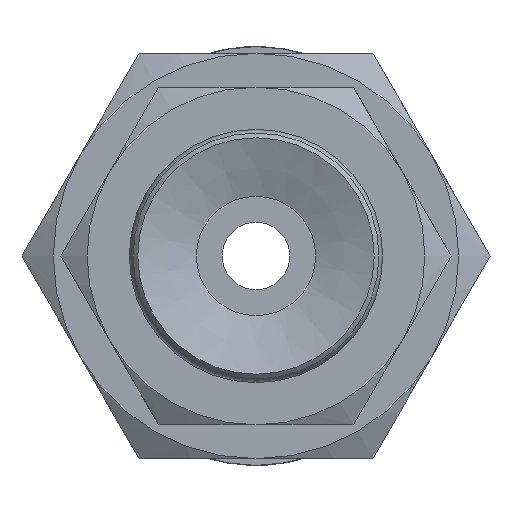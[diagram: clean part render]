
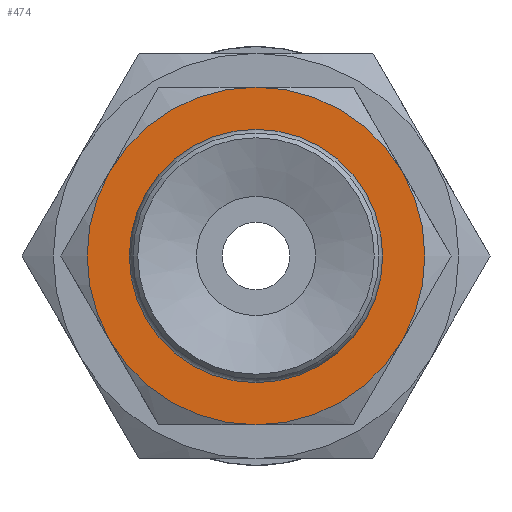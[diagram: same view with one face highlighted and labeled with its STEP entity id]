
A CAD part, front view. The second image highlights one B-rep face of the part: STEP entity #474.
In plain terms, the highlighted planar face has unit normal (0, -1, 0).
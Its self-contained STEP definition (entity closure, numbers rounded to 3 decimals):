
#474=ADVANCED_FACE('',(#659,#660),#661,.T.);
#659=FACE_BOUND('',#1053,.T.);
#660=FACE_OUTER_BOUND('',#1054,.T.);
#661=PLANE('',#1055);
#1053=EDGE_LOOP('',(#1746));
#1054=EDGE_LOOP('',(#1747,#1748,#1749,#1750,#1751,#1752));
#1055=AXIS2_PLACEMENT_3D('',#1753,#1754,#1755);
#1746=ORIENTED_EDGE('',*,*,#2654,.F.);
#1747=ORIENTED_EDGE('',*,*,#2628,.T.);
#1748=ORIENTED_EDGE('',*,*,#2662,.T.);
#1749=ORIENTED_EDGE('',*,*,#2642,.T.);
#1750=ORIENTED_EDGE('',*,*,#2644,.T.);
#1751=ORIENTED_EDGE('',*,*,#2663,.T.);
#1752=ORIENTED_EDGE('',*,*,#2664,.T.);
#1753=CARTESIAN_POINT('',(2.0,0.,0.0));
#1754=DIRECTION('',(0.0,-1.0,0.0));
#1755=DIRECTION('',(0.0,0.0,-1.0));
#2628=EDGE_CURVE('',#2902,#2908,#2910,.T.);
#2642=EDGE_CURVE('',#2933,#2926,#2935,.T.);
#2644=EDGE_CURVE('',#2926,#2936,#2938,.T.);
#2654=EDGE_CURVE('',#2952,#2952,#2953,.T.);
#2662=EDGE_CURVE('',#2908,#2933,#2967,.T.);
#2663=EDGE_CURVE('',#2936,#2885,#2968,.T.);
#2664=EDGE_CURVE('',#2885,#2902,#2969,.T.);
#2885=VERTEX_POINT('',#3347);
#2902=VERTEX_POINT('',#3377);
#2908=VERTEX_POINT('',#3390);
#2910=CIRCLE('',#3394,5.0);
#2926=VERTEX_POINT('',#3422);
#2933=VERTEX_POINT('',#3436);
#2935=CIRCLE('',#3440,5.0);
#2936=VERTEX_POINT('',#3441);
#2938=CIRCLE('',#3445,5.0);
#2952=VERTEX_POINT('',#3464);
#2953=CIRCLE('',#3465,2.0);
#2967=CIRCLE('',#3481,5.0);
#2968=CIRCLE('',#3482,5.0);
#2969=CIRCLE('',#3483,5.0);
#3347=CARTESIAN_POINT('',(-4.33,0.0,-2.5));
#3377=CARTESIAN_POINT('',(0.0,0.0,-5.0));
#3390=CARTESIAN_POINT('',(4.33,0.0,-2.5));
#3394=AXIS2_PLACEMENT_3D('',#4479,#4480,#4481);
#3422=CARTESIAN_POINT('',(0.0,0.0,5.0));
#3436=CARTESIAN_POINT('',(4.33,0.0,2.5));
#3440=AXIS2_PLACEMENT_3D('',#4488,#4489,#4490);
#3441=CARTESIAN_POINT('',(-4.33,0.,2.5));
#3445=AXIS2_PLACEMENT_3D('',#4491,#4492,#4493);
#3464=CARTESIAN_POINT('',(0.0,0.,-2.0));
#3465=AXIS2_PLACEMENT_3D('',#4513,#4514,#4515);
#3481=AXIS2_PLACEMENT_3D('',#4534,#4535,#4536);
#3482=AXIS2_PLACEMENT_3D('',#4537,#4538,#4539);
#3483=AXIS2_PLACEMENT_3D('',#4540,#4541,#4542);
#4479=CARTESIAN_POINT('',(0.0,0.,0.0));
#4480=DIRECTION('',(0.0,-1.0,0.0));
#4481=DIRECTION('',(0.0,0.0,-1.0));
#4488=CARTESIAN_POINT('',(0.0,0.,0.0));
#4489=DIRECTION('',(0.0,-1.0,0.0));
#4490=DIRECTION('',(0.0,0.0,-1.0));
#4491=CARTESIAN_POINT('',(0.0,0.,0.0));
#4492=DIRECTION('',(0.0,-1.0,0.0));
#4493=DIRECTION('',(0.0,0.0,-1.0));
#4513=CARTESIAN_POINT('',(0.0,0.,0.0));
#4514=DIRECTION('',(0.0,-1.0,0.0));
#4515=DIRECTION('',(0.0,0.0,-1.0));
#4534=CARTESIAN_POINT('',(0.0,0.,0.0));
#4535=DIRECTION('',(0.0,-1.0,0.0));
#4536=DIRECTION('',(0.0,0.0,-1.0));
#4537=CARTESIAN_POINT('',(0.0,0.,0.0));
#4538=DIRECTION('',(0.0,-1.0,0.0));
#4539=DIRECTION('',(0.0,0.0,-1.0));
#4540=CARTESIAN_POINT('',(0.0,0.,0.0));
#4541=DIRECTION('',(0.0,-1.0,0.0));
#4542=DIRECTION('',(0.0,0.0,-1.0));
